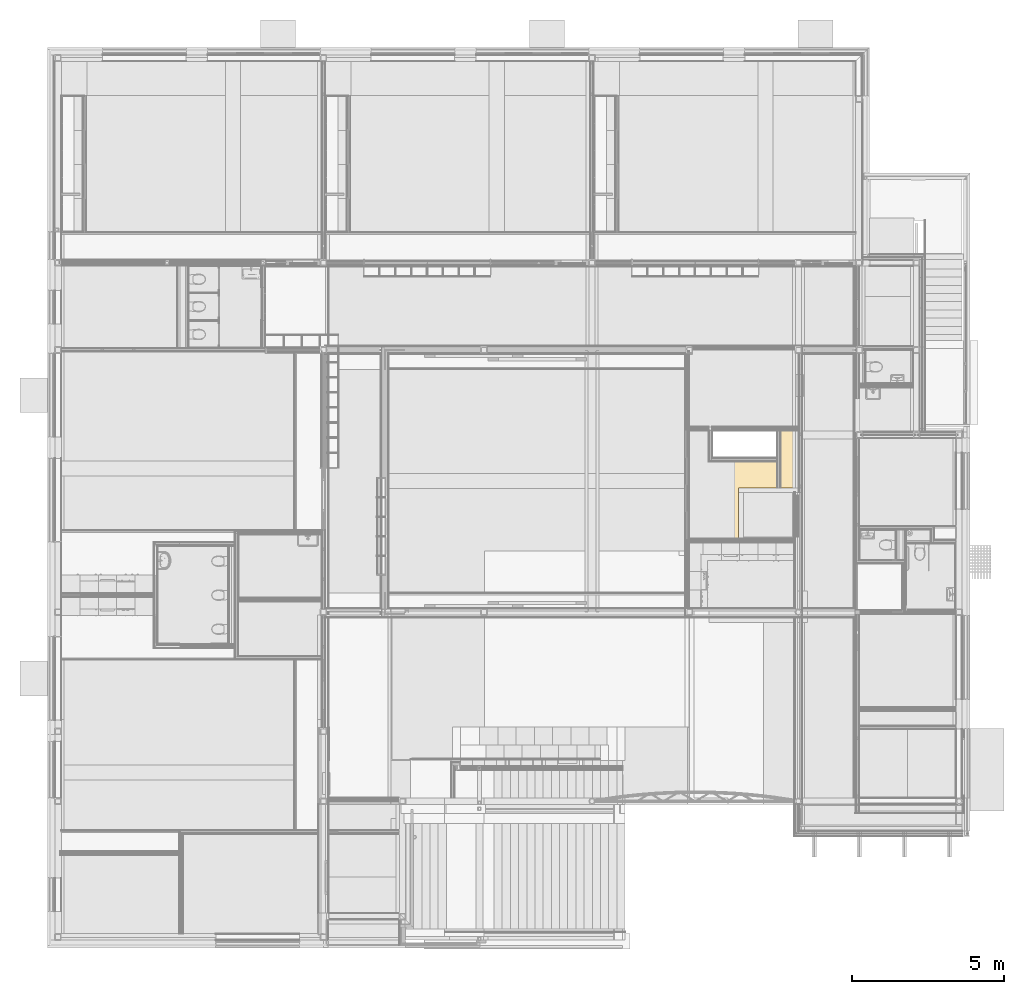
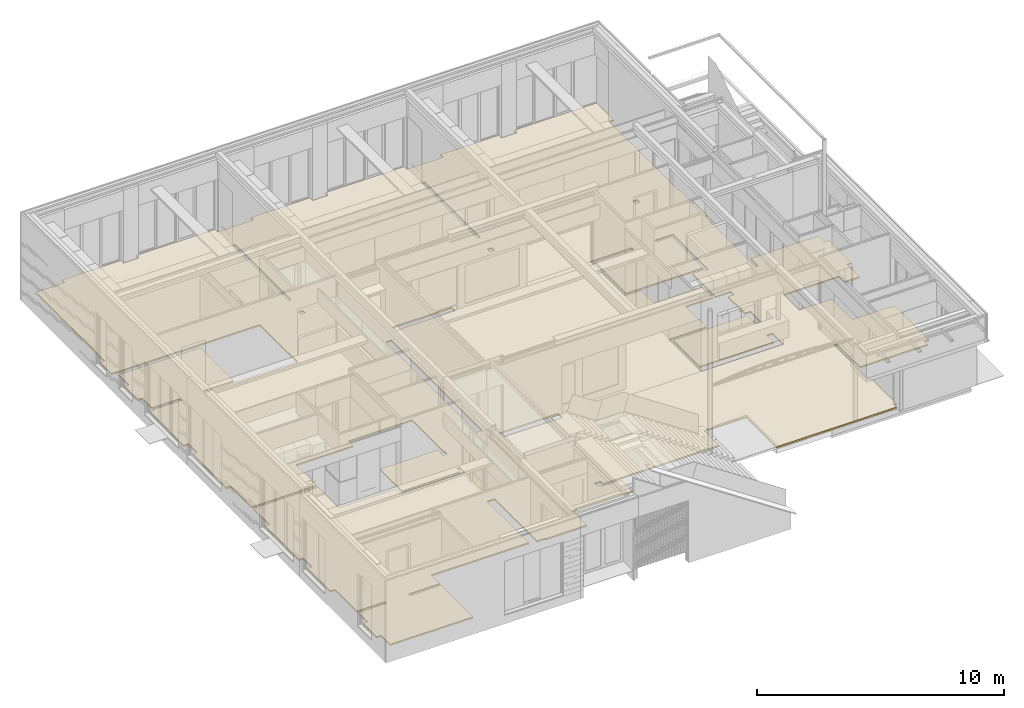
# One storey, part 116 of 165: 1 covering, 1 element without a shape of its own.
"""IFC2X3 building model written with IfcOpenShell, lengths in millimetres."""

from ifc_helpers import new_model, entity, si_unit, converted_unit, derived_unit, money_unit, direction, frame, origin_with_axes, place, context, subcontext, project, spatial, faceted_brep, material, type_object, element, aggregate, save


model = new_model("IFC2X3")

# Units and contexts
model_context = context("Model", 3, precision=0.01, world=origin_with_axes(), true_north=direction((0.0, 1.0)))
body_context = subcontext(model_context, "Body", "Model", "MODEL_VIEW")
ifc_project = project(units=[si_unit("LENGTHUNIT", "METRE", prefix="MILLI"), si_unit("AREAUNIT", "SQUARE_METRE"), si_unit("VOLUMEUNIT", "CUBIC_METRE"), converted_unit("PLANEANGLEUNIT", "DEGREE", entity("IfcPlaneAngleMeasure", 0.0174532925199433), si_unit("PLANEANGLEUNIT", "RADIAN"), dimensions=[0, 0, 0, 0, 0, 0, 0]), money_unit("EUR"), converted_unit("TIMEUNIT", "Year", entity("IfcTimeMeasure", 31556926.0), si_unit("TIMEUNIT", "SECOND"), dimensions=[0, 0, 1, 0, 0, 0, 0]), si_unit("MASSUNIT", "GRAM", prefix="KILO"), si_unit("THERMODYNAMICTEMPERATUREUNIT", "DEGREE_CELSIUS"), si_unit("LUMINOUSINTENSITYUNIT", "LUMEN"), si_unit("ENERGYUNIT", "JOULE", prefix="MEGA"), derived_unit("THERMALCONDUCTANCEUNIT", [(si_unit("POWERUNIT", "WATT"), 1), (si_unit("LENGTHUNIT", "METRE"), -1), (si_unit("THERMODYNAMICTEMPERATUREUNIT", "KELVIN"), -1)]), derived_unit("SPECIFICHEATCAPACITYUNIT", [(si_unit("ENERGYUNIT", "JOULE"), 1), (si_unit("MASSUNIT", "GRAM", prefix="KILO"), -1), (si_unit("THERMODYNAMICTEMPERATUREUNIT", "KELVIN"), -1)]), derived_unit("MASSDENSITYUNIT", [(si_unit("MASSUNIT", "GRAM", prefix="KILO"), 1), (si_unit("VOLUMEUNIT", "CUBIC_METRE"), -1)])], contexts=[model_context])

# Site, building, storey
site_placement = place(None, origin_with_axes())
site = spatial("IfcSite", under=ifc_project, at=site_placement, Name="Site", CompositionType="ELEMENT")
building_placement = place(site_placement, origin_with_axes())
building = spatial("IfcBuilding", under=site, at=building_placement, Name="Naam gebouw", CompositionType="ELEMENT")
storey_placement = place(building_placement, origin_with_axes())
storey = spatial("IfcBuildingStorey", under=building, at=storey_placement, Name="Begane grond", CompositionType="ELEMENT", Elevation=0.0)

# Slab, covering
slab_type = type_object("IfcSlabType", Name="43 Zwevende dekvloer 100", PredefinedType="NOTDEFINED")
slab_placement = place(storey_placement, frame((-1.067573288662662e-10, 13124.99976110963, 0.0), z_axis=(0.0, 0.0, 1.0), x_axis=(1.0, 0.0, 0.0)))
slab = element("IfcSlab", 1, at=slab_placement, inside=storey, type_object=slab_type, Name="_Vloer-x", PredefinedType="NOTDEFINED")
ifc_material = material(Name="Cement - dekvloer")
covering_placement = place(slab_placement, origin_with_axes())
covering = element("IfcCovering", 2, at=covering_placement, material=ifc_material, Name="Cement - dekvloer", PredefinedType="FLOORING", context=body_context, shape_type="Brep", body=[
    faceted_brep([(214.0000000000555, 0.0, -70.0), (214.0000000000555, 0.0, 0.0), (0.0, 0.0, 0.0), (0.0, 0.0, -70.0), (214.0000000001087, -1692.499063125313, -70.0), (214.0000000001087, -1692.499063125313, 0.0), (3249.992400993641, -1692.499063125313, 0.0), (3250.000058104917, -9.999486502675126, 0.0), (5924.999489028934, -9.999486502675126, 0.0), (5924.999597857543, 380.0005134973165, 0.0), (8912.500000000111, 380.0002711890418, 0.0), (8912.500000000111, -2214.999650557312, 0.0), (8950.00000000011, -2214.999650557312, 0.0), (8950.00000000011, -2414.999650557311, 0.0), (8750.000000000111, -2414.999650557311, 0.0), (8750.000000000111, -2214.999650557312, 0.0), (8787.500000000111, -2214.999650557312, 0.0), (8787.500000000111, -1969.999670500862, 0.0), (6049.999597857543, -1969.999670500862, 0.0), (6049.999597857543, -3764.99979461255, 0.0), (8787.50000000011, -3764.99979461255, 0.0), (8787.500000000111, -3494.999650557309, 0.0), (8912.500000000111, -3494.999650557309, 0.0), (8912.500000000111, -3889.999804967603, 0.0), (8787.50000000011, -3889.999804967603, 0.0), (5924.999597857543, -3889.999804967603, 0.0), (5924.999586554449, -3500.000102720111, 0.0), (3249.984153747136, -3499.999594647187, 0.0), (3249.992340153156, -1817.503187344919, 0.0), (214.0000000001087, -1817.503187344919, 0.0), (214.0000000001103, -3119.999761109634, 0.0), (1.112054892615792e-10, -3119.999761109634, 0.0), (1.120353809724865e-10, -5869.999761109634, 0.0), (214.0000000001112, -5869.999761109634, 0.0), (214.0000000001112, -6579.999761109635, 0.0), (1.112054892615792e-10, -6579.999761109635, 0.0), (1.095457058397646e-10, -8429.999761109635, 0.0), (214.0000000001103, -8429.999761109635, 0.0), (214.0000000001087, -10200.00404893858, 0.0), (1513.999964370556, -10200.00404893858, 0.0), (1513.999964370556, -10325.00404893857, 0.0), (214.0000000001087, -10325.00404893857, 0.0), (214.0000000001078, -11074.91186087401, 0.0), (1.070560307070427e-10, -11074.91186087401, 0.0), (1.062261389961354e-10, -12174.99976110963, 0.0), (214.0000000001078, -12174.99976110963, 0.0), (214.0000000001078, -12910.99976110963, 0.0), (4100.000000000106, -12910.99976110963, 0.0), (4100.000000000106, -10325.00404893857, 0.0), (2643.999964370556, -10325.00404893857, 0.0), (2643.999964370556, -10200.00404893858, 0.0), (4100.000000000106, -10200.00404893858, 0.0), (4100.000000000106, -9625.004048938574, 0.0), (4100.000000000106, -9500.004048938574, 0.0), (8675.000000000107, -9500.004048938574, 0.0), (8675.000000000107, -6119.999761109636, 0.0), (9025.000000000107, -6119.999761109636, 0.0), (9025.000000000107, -9560.004035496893, 0.0), (9416.00000000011, -9560.004035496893, 0.0), (9416.00000000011, -9605.004048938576, 0.0), (11336.00000000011, -9605.004048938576, 0.0), (11336.00000000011, -8430.999761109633, 0.0), (14150.00000000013, -8430.999761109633, 0.0), (14150.00000000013, -7519.999756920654, 0.0), (13220.57016167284, -7519.999756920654, 0.0), (13220.57016167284, -7429.999756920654, 0.0), (13088.57016167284, -7429.999756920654, 0.0), (13088.57016167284, -7194.999870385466, 0.0), (13358.5701575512, -7194.999870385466, 0.0), (13358.5701575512, -7394.999762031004, 0.0), (14300.00000000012, -7394.999762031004, 0.0), (18790.00001687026, -7394.999762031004, 0.0), (18790.00001687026, -6194.999430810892, 0.0), (20759.99795555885, -6194.999430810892, 0.0), (20759.99795555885, -8644.999761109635, 0.0), (26386.00000000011, -8644.999761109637, 0.0), (26386.00000000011, -8430.999761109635, 0.0), (26511.00000000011, -8430.999761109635, 0.0), (26511.00000000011, -6420.999761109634, 0.0), (26386.00000000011, -6420.999761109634, 0.0), (26386.00000000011, -3577.499650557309, 0.0), (26511.00000000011, -3577.499650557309, 0.0), (26511.00000000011, -5450.001717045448, 0.0), (29686.0000000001, -5450.001717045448, 0.0), (29686.0000000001, -5179.999650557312, 0.0), (29900.0000000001, -5179.999650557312, 0.0), (29900.0000000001, -2429.999650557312, 0.0), (29686.0000000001, -2429.999650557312, 0.0), (29686.0000000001, -2377.499650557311, 0.0), (27924.999952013, -2377.499650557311, 0.0), (27924.99913789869, -2102.499733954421, 0.0), (27924.99913789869, -725.0005355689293, 0.0), (26386.00000000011, -725.0014712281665, 0.0), (26386.00000000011, 524.9980205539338, 0.0), (28985.9999999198, 524.9980205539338, 0.0), (28985.9999999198, 74.9980157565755, 0.0), (29686.0000000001, 74.9980157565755, 0.0), (29686.0000000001, 1080.997940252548, 0.0), (29900.0000000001, 1080.997940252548, 0.0), (29900.0000000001, 2930.997946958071, 0.0), (29686.0000000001, 2930.997946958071, 0.0), (29686.0000000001, 3410.998020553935, 0.0), (28286.00006241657, 3410.998020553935, 0.0), (26511.00000000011, 3410.998020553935, 0.0), (26511.00000000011, 2804.99802055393, 0.0), (26386.00000000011, 2804.99802055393, 0.0), (26386.00000000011, 3624.998020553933, 0.0), (26386.00000000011, 4704.998020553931, 0.0), (26386.00000000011, 6450.000631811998, 0.0), (26436.00000000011, 6450.000631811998, 0.0), (26436.00000000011, 6955.976481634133, 0.0), (26518.00000000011, 6955.976481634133, 0.0), (26518.00000000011, 7995.976481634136, 0.0), (26441.00000000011, 7995.976481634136, 0.0), (26441.00000000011, 9085.976481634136, 0.0), (26386.00000000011, 9085.976481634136, 0.0), (26386.00000000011, 14655.00023889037, 0.0), (26600.00000000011, 14655.00023889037, 0.0), (26600.00000000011, 16050.00023889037, 0.0), (22734.99942457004, 16050.00023889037, 0.0), (22734.99942457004, 15836.00023889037, 0.0), (22024.99942457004, 15836.00023889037, 0.0), (22024.99942457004, 16050.00023889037, 0.0), (19274.99942457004, 16050.00023889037, 0.0), (19274.99942457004, 15836.00023889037, 0.0), (17584.99940371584, 15836.00023889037, 0.0), (17584.99940371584, 16050.00023889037, 0.0), (13884.99935033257, 16050.00023889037, 0.0), (13884.99935033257, 15836.00023889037, 0.0), (13174.99952442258, 15836.00023889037, 0.0), (13174.99952442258, 16050.00023889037, 0.0), (10424.99937640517, 16050.00023889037, 0.0), (10424.99937640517, 15836.00023889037, 0.0), (8734.999997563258, 15836.00023889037, 0.0), (8734.999997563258, 16050.00023889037, 0.0), (5034.999961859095, 16050.00023889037, 0.0), (5034.999961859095, 15836.00023889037, 0.0), (4324.999864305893, 15836.00023889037, 0.0), (4324.999864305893, 16050.00023889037, 0.0), (1575.000000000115, 16050.00023889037, 0.0), (1575.000000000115, 15836.00023889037, 0.0), (214.0000000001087, 15836.00023889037, 0.0), (214.0000000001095, 10215.00008596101, 0.0), (1.095457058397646e-10, 10215.00008596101, 0.0), (1.095457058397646e-10, 9315.000085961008, 0.0), (214.0000000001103, 9315.000085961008, 0.0), (214.0000000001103, 9294.977024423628, 0.0), (6939.999918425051, 9294.99498550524, 0.0), (6940.000053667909, 6262.500050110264, 0.0), (2644.000000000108, 6262.500050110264, 0.0), (2644.000000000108, 6387.500050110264, 0.0), (4029.999994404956, 6387.500050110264, 0.0), (4029.999994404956, 9104.98721465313, 0.0), (214.0005073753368, 9104.977011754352, 0.0), (214.0001290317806, 8285.000050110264, 0.0), (1.112054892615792e-10, 8285.000050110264, 0.0), (1.112054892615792e-10, 7185.000050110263, 0.0), (214.0000000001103, 7185.000050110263, 0.0), (214.0000000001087, 6387.500050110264, 0.0), (1514.000000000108, 6387.500050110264, 0.0), (1514.000000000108, 6262.500050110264, 0.0), (214.0000000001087, 6262.500050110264, 0.0), (214.0000000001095, 6210.000111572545, 0.0), (1.070560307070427e-10, 6210.000111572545, 0.0), (1.0788592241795e-10, 3460.000048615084, 0.0), (214.0000000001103, 3460.000048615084, 0.0), (214.0000000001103, 2750.000062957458, 0.0), (0.0, 2750.000062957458, 0.0), (8750.000000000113, 9300.000085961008, 0.0), (8950.000000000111, 9300.000085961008, 0.0), (8950.000000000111, 9100.000085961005, 0.0), (8750.000000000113, 9100.000085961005, 0.0), (8787.500000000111, 10200.00008596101, 0.0), (8787.500000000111, 14706.00023889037, 0.0), (8912.500000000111, 14706.00023889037, 0.0), (8912.500000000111, 10200.00008596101, 0.0), (10740.00000000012, -1680.000944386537, 0.0), (10740.00000000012, 5690.000631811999, 0.0), (11010.00000000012, 5690.000631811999, 0.0), (11010.00000000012, -1680.000944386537, 0.0), (11515.00000000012, 6460.000631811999, 0.0), (14274.99795005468, 6460.000631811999, 0.0), (14274.99795005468, 6190.000631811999, 0.0), (11515.00000000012, 6190.000631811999, 0.0), (11515.00006286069, -2180.000944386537, 0.0), (14275.00189153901, -2180.000944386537, 0.0), (14275.00189153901, -2505.000944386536, 0.0), (11515.00006286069, -2505.000944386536, 0.0), (17799.99942457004, 9100.000085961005, 0.0), (17599.99942457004, 9100.000085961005, 0.0), (17599.99942457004, 9300.000085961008, 0.0), (17799.99942457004, 9300.000085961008, 0.0), (17762.49942457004, 10200.00008596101, 0.0), (17637.49942457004, 10200.00008596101, 0.0), (17637.49942457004, 14706.00023889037, 0.0), (17762.49942457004, 14706.00023889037, 0.0), (20774.99906281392, 3664.998080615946, 0.0), (20774.99782692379, 6460.000631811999, 0.0), (22719.98347325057, 6460.000631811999, 0.0), (22719.98347325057, 6335.000631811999, 0.0), (20899.99788392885, 6335.000631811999, 0.0), (20899.99904455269, 3789.998020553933, 0.0), (24509.99903999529, 3789.966411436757, 0.0), (24509.99903999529, 6335.000631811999, 0.0), (23799.98347325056, 6335.000631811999, 0.0), (23799.98347325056, 6460.000631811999, 0.0), (24634.99903999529, 6460.000631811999, 0.0), (24634.99903999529, 3594.9979409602, 0.0), (24509.99903999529, 3594.9979409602, 0.0), (24509.99903999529, 3664.998020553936, 0.0), (23924.99903999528, 3664.998020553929, 0.0), (23924.99903999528, 1784.997941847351, 0.0), (24634.99903999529, 1784.997941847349, 0.0), (24634.99903999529, 1524.497940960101, 0.0), (24364.99903999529, 1524.497940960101, 0.0), (24364.99903999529, 164.4979409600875, 0.0), (24634.99903999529, 164.4979409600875, 0.0), (24634.99903999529, -670.0020590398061, 0.0), (24364.99903999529, -670.0020590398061, 0.0), (24364.99907625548, -20.00205903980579, 0.0), (20899.99920567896, -20.00153493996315, 0.0), (20900.00167438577, -2179.998763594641, 0.0), (24365.03601260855, -2179.913999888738, 0.0), (24365.02231587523, -1620.008663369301, 0.0), (24635.02227945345, -1620.002058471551, 0.0), (24635.04392842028, -2504.984760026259, 0.0), (20774.99906281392, -2505.000944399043, 0.0), (20774.99906281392, 104.9984839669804, 0.0), (22534.9990383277, 104.9984839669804, 0.0), (22534.9990383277, 1784.998146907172, 0.0), (23799.99903999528, 1784.998146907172, 0.0), (23799.99903999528, 2649.997805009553, 0.0), (21539.99919353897, 2649.998146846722, 0.0), (21539.99919353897, 3664.998028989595, 0.0), (24599.99903999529, 9100.000085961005, 0.0), (24399.99903999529, 9100.000085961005, 0.0), (24399.99903999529, 9300.000085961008, 0.0), (24599.99903999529, 9300.000085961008, 0.0), (0.0, 2750.000062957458, -70.0), (214.0000000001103, 2750.000062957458, -70.0), (214.0000000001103, 3460.000048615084, -70.0), (1.0788592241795e-10, 3460.000048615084, -70.0), (1.070560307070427e-10, 6210.000111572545, -70.0), (214.0000000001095, 6210.000111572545, -70.0), (214.0000000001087, 6262.500050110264, -70.0), (1514.000000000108, 6262.500050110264, -70.0), (1514.000000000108, 6387.500050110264, -70.0), (214.0000000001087, 6387.500050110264, -70.0), (214.0000000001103, 7185.000050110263, -70.0), (1.112054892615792e-10, 7185.000050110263, -70.0), (1.112054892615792e-10, 8285.000050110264, -70.0), (214.0001290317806, 8285.000050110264, -70.0), (214.0005073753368, 9104.977011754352, -70.0), (4029.999994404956, 9104.98721465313, -70.0), (4029.999994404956, 6387.500050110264, -70.0), (2644.000000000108, 6387.500050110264, -70.0), (2644.000000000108, 6262.500050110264, -70.0), (6940.000053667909, 6262.500050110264, -70.0), (6939.999918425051, 9294.99498550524, -70.0), (214.0000000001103, 9294.977024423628, -70.0), (214.0000000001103, 9315.000085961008, -70.0), (1.095457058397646e-10, 9315.000085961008, -70.0), (1.095457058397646e-10, 10215.00008596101, -70.0), (214.0000000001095, 10215.00008596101, -70.0), (214.0000000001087, 15836.00023889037, -70.0), (1575.000000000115, 15836.00023889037, -70.0), (1575.000000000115, 16050.00023889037, -70.0), (4324.999864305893, 16050.00023889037, -70.0), (4324.999864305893, 15836.00023889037, -70.0), (5034.999961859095, 15836.00023889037, -70.0), (5034.999961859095, 16050.00023889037, -70.0), (8734.999997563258, 16050.00023889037, -70.0), (8734.999997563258, 15836.00023889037, -70.0), (10424.99937640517, 15836.00023889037, -70.0), (10424.99937640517, 16050.00023889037, -70.0), (13174.99952442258, 16050.00023889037, -70.0), (13174.99952442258, 15836.00023889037, -70.0), (13884.99935033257, 15836.00023889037, -70.0), (13884.99935033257, 16050.00023889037, -70.0), (17584.99940371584, 16050.00023889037, -70.0), (17584.99940371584, 15836.00023889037, -70.0), (19274.99942457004, 15836.00023889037, -70.0), (19274.99942457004, 16050.00023889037, -70.0), (22024.99942457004, 16050.00023889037, -70.0), (22024.99942457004, 15836.00023889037, -70.0), (22734.99942457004, 15836.00023889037, -70.0), (22734.99942457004, 16050.00023889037, -70.0), (26600.00000000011, 16050.00023889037, -70.0), (26600.00000000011, 14655.00023889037, -70.0), (26386.00000000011, 14655.00023889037, -70.0), (26386.00000000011, 9085.976481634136, -70.0), (26441.00000000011, 9085.976481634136, -70.0), (26441.00000000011, 7995.976481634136, -70.0), (26518.00000000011, 7995.976481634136, -70.0), (26518.00000000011, 6955.976481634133, -70.0), (26436.00000000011, 6955.976481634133, -70.0), (26436.00000000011, 6450.000631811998, -70.0), (26386.00000000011, 6450.000631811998, -70.0), (26386.00000000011, 4704.998020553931, -70.0), (26386.00000000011, 3624.998020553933, -70.0), (26386.00000000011, 2804.99802055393, -70.0), (26511.00000000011, 2804.99802055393, -70.0), (26511.00000000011, 3410.998020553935, -70.0), (28286.00006241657, 3410.998020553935, -70.0), (29686.0000000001, 3410.998020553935, -70.0), (29686.0000000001, 2930.997946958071, -70.0), (29900.0000000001, 2930.997946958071, -70.0), (29900.0000000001, 1080.997940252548, -70.0), (29686.0000000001, 1080.997940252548, -70.0), (29686.0000000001, 74.9980157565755, -70.0), (28985.9999999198, 74.9980157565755, -70.0), (28985.9999999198, 524.9980205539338, -70.0), (26386.00000000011, 524.9980205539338, -70.0), (26386.00000000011, -725.0014712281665, -70.0), (27924.99913789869, -725.0005355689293, -70.0), (27924.99913789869, -2102.499733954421, -70.0), (27924.999952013, -2377.499650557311, -70.0), (29686.0000000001, -2377.499650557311, -70.0), (29686.0000000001, -2429.999650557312, -70.0), (29900.0000000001, -2429.999650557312, -70.0), (29900.0000000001, -5179.999650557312, -70.0), (29686.0000000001, -5179.999650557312, -70.0), (29686.0000000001, -5450.001717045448, -70.0), (26511.00000000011, -5450.001717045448, -70.0), (26511.00000000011, -3577.499650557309, -70.0), (26386.00000000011, -3577.499650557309, -70.0), (26386.00000000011, -6420.999761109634, -70.0), (26511.00000000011, -6420.999761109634, -70.0), (26511.00000000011, -8430.999761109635, -70.0), (26386.00000000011, -8430.999761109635, -70.0), (26386.00000000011, -8644.999761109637, -70.0), (20759.99795555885, -8644.999761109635, -70.0), (20759.99795555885, -6194.999430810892, -70.0), (18790.00001687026, -6194.999430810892, -70.0), (18790.00001687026, -7394.999762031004, -70.0), (14300.00000000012, -7394.999762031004, -70.0), (13358.5701575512, -7394.999762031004, -70.0), (13358.5701575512, -7194.999870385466, -70.0), (13088.57016167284, -7194.999870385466, -70.0), (13088.57016167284, -7429.999756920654, -70.0), (13220.57016167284, -7429.999756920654, -70.0), (13220.57016167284, -7519.999756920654, -70.0), (14150.00000000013, -7519.999756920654, -70.0), (14150.00000000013, -8430.999761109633, -70.0), (11336.00000000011, -8430.999761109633, -70.0), (11336.00000000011, -9605.004048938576, -70.0), (9416.00000000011, -9605.004048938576, -70.0), (9416.00000000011, -9560.004035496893, -70.0), (9025.000000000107, -9560.004035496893, -70.0), (9025.000000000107, -6119.999761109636, -70.0), (8675.000000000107, -6119.999761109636, -70.0), (8675.000000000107, -9500.004048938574, -70.0), (4100.000000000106, -9500.004048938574, -70.0), (4100.000000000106, -9625.004048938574, -70.0), (4100.000000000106, -10200.00404893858, -70.0), (2643.999964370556, -10200.00404893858, -70.0), (2643.999964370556, -10325.00404893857, -70.0), (4100.000000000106, -10325.00404893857, -70.0), (4100.000000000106, -12910.99976110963, -70.0), (214.0000000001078, -12910.99976110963, -70.0), (214.0000000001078, -12174.99976110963, -70.0), (1.062261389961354e-10, -12174.99976110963, -70.0), (1.070560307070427e-10, -11074.91186087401, -70.0), (214.0000000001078, -11074.91186087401, -70.0), (214.0000000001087, -10325.00404893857, -70.0), (1513.999964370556, -10325.00404893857, -70.0), (1513.999964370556, -10200.00404893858, -70.0), (214.0000000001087, -10200.00404893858, -70.0), (214.0000000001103, -8429.999761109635, -70.0), (1.095457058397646e-10, -8429.999761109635, -70.0), (1.112054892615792e-10, -6579.999761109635, -70.0), (214.0000000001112, -6579.999761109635, -70.0), (214.0000000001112, -5869.999761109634, -70.0), (1.120353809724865e-10, -5869.999761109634, -70.0), (1.112054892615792e-10, -3119.999761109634, -70.0), (214.0000000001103, -3119.999761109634, -70.0), (214.0000000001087, -1817.503187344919, -70.0), (3249.992340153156, -1817.503187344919, -70.0), (3249.984153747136, -3499.999594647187, -70.0), (5924.999586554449, -3500.000102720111, -70.0), (5924.999597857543, -3889.999804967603, -70.0), (8787.50000000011, -3889.999804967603, -70.0), (8912.500000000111, -3889.999804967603, -70.0), (8912.500000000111, -3494.999650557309, -70.0), (8787.500000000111, -3494.999650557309, -70.0), (8787.50000000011, -3764.99979461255, -70.0), (6049.999597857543, -3764.99979461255, -70.0), (6049.999597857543, -1969.999670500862, -70.0), (8787.500000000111, -1969.999670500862, -70.0), (8787.500000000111, -2214.999650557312, -70.0), (8750.000000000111, -2214.999650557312, -70.0), (8750.000000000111, -2414.999650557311, -70.0), (8950.00000000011, -2414.999650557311, -70.0), (8950.00000000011, -2214.999650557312, -70.0), (8912.500000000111, -2214.999650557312, -70.0), (8912.500000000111, 380.0002711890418, -70.0), (5924.999597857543, 380.0005134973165, -70.0), (5924.999489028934, -9.999486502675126, -70.0), (3250.000058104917, -9.999486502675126, -70.0), (3249.992400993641, -1692.499063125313, -70.0), (8750.000000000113, 9300.000085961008, -70.0), (8750.000000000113, 9100.000085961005, -70.0), (8950.000000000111, 9100.000085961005, -70.0), (8950.000000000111, 9300.000085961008, -70.0), (8787.500000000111, 10200.00008596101, -70.0), (8912.500000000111, 10200.00008596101, -70.0), (8912.500000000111, 14706.00023889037, -70.0), (8787.500000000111, 14706.00023889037, -70.0), (10740.00000000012, -1680.000944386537, -70.0), (11010.00000000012, -1680.000944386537, -70.0), (11010.00000000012, 5690.000631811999, -70.0), (10740.00000000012, 5690.000631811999, -70.0), (11515.00000000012, 6460.000631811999, -70.0), (11515.00000000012, 6190.000631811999, -70.0), (14274.99795005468, 6190.000631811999, -70.0), (14274.99795005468, 6460.000631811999, -70.0), (11515.00006286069, -2180.000944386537, -70.0), (11515.00006286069, -2505.000944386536, -70.0), (14275.00189153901, -2505.000944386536, -70.0), (14275.00189153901, -2180.000944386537, -70.0), (17799.99942457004, 9100.000085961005, -70.0), (17799.99942457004, 9300.000085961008, -70.0), (17599.99942457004, 9300.000085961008, -70.0), (17599.99942457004, 9100.000085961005, -70.0), (17762.49942457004, 10200.00008596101, -70.0), (17762.49942457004, 14706.00023889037, -70.0), (17637.49942457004, 14706.00023889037, -70.0), (17637.49942457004, 10200.00008596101, -70.0), (20774.99906281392, 3664.998080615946, -70.0), (21539.99919353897, 3664.998028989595, -70.0), (21539.99919353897, 2649.998146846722, -70.0), (23799.99903999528, 2649.997805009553, -70.0), (23799.99903999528, 1784.998146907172, -70.0), (22534.9990383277, 1784.998146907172, -70.0), (22534.9990383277, 104.9984839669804, -70.0), (20774.99906281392, 104.9984839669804, -70.0), (20774.99906281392, -2505.000944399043, -70.0), (24635.04392842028, -2504.984760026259, -70.0), (24635.02227945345, -1620.002058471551, -70.0), (24365.02231587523, -1620.008663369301, -70.0), (24365.03601260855, -2179.913999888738, -70.0), (20900.00167438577, -2179.998763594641, -70.0), (20899.99920567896, -20.00153493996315, -70.0), (24364.99907625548, -20.00205903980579, -70.0), (24364.99903999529, -670.0020590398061, -70.0), (24634.99903999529, -670.0020590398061, -70.0), (24634.99903999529, 164.4979409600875, -70.0), (24364.99903999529, 164.4979409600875, -70.0), (24364.99903999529, 1524.497940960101, -70.0), (24634.99903999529, 1524.497940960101, -70.0), (24634.99903999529, 1784.997941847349, -70.0), (23924.99903999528, 1784.997941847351, -70.0), (23924.99903999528, 3664.998020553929, -70.0), (24509.99903999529, 3664.998020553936, -70.0), (24509.99903999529, 3594.9979409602, -70.0), (24634.99903999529, 3594.9979409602, -70.0), (24634.99903999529, 6460.000631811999, -70.0), (23799.98347325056, 6460.000631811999, -70.0), (23799.98347325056, 6335.000631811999, -70.0), (24509.99903999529, 6335.000631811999, -70.0), (24509.99903999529, 3789.966411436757, -70.0), (20899.99904455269, 3789.998020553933, -70.0), (20899.99788392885, 6335.000631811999, -70.0), (22719.98347325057, 6335.000631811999, -70.0), (22719.98347325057, 6460.000631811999, -70.0), (20774.99782692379, 6460.000631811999, -70.0), (24599.99903999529, 9100.000085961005, -70.0), (24599.99903999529, 9300.000085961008, -70.0), (24399.99903999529, 9300.000085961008, -70.0), (24399.99903999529, 9100.000085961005, -70.0)], [[[0, 1, 2, 3]], [[4, 5, 1, 0]], [[2, 1, 5, 6, 7, 8, 9, 10, 11, 12, 13, 14, 15, 16, 17, 18, 19, 20, 21, 22, 23, 24, 25, 26, 27, 28, 29, 30, 31, 32, 33, 34, 35, 36, 37, 38, 39, 40, 41, 42, 43, 44, 45, 46, 47, 48, 49, 50, 51, 52, 53, 54, 55, 56, 57, 58, 59, 60, 61, 62, 63, 64, 65, 66, 67, 68, 69, 70, 71, 72, 73, 74, 75, 76, 77, 78, 79, 80, 81, 82, 83, 84, 85, 86, 87, 88, 89, 90, 91, 92, 93, 94, 95, 96, 97, 98, 99, 100, 101, 102, 103, 104, 105, 106, 107, 108, 109, 110, 111, 112, 113, 114, 115, 116, 117, 118, 119, 120, 121, 122, 123, 124, 125, 126, 127, 128, 129, 130, 131, 132, 133, 134, 135, 136, 137, 138, 139, 140, 141, 142, 143, 144, 145, 146, 147, 148, 149, 150, 151, 152, 153, 154, 155, 156, 157, 158, 159, 160, 161, 162, 163, 164, 165, 166, 167], [168, 169, 170, 171], [172, 173, 174, 175], [176, 177, 178, 179], [180, 181, 182, 183], [184, 185, 186, 187], [188, 189, 190, 191], [192, 193, 194, 195], [196, 197, 198, 199, 200, 201, 202, 203, 204, 205, 206, 207, 208, 209, 210, 211, 212, 213, 214, 215, 216, 217, 218, 219, 220, 221, 222, 223, 224, 225, 226, 227, 228, 229, 230, 231, 232, 233], [234, 235, 236, 237]], [[3, 2, 167, 238]], [[3, 238, 239, 240, 241, 242, 243, 244, 245, 246, 247, 248, 249, 250, 251, 252, 253, 254, 255, 256, 257, 258, 259, 260, 261, 262, 263, 264, 265, 266, 267, 268, 269, 270, 271, 272, 273, 274, 275, 276, 277, 278, 279, 280, 281, 282, 283, 284, 285, 286, 287, 288, 289, 290, 291, 292, 293, 294, 295, 296, 297, 298, 299, 300, 301, 302, 303, 304, 305, 306, 307, 308, 309, 310, 311, 312, 313, 314, 315, 316, 317, 318, 319, 320, 321, 322, 323, 324, 325, 326, 327, 328, 329, 330, 331, 332, 333, 334, 335, 336, 337, 338, 339, 340, 341, 342, 343, 344, 345, 346, 347, 348, 349, 350, 351, 352, 353, 354, 355, 356, 357, 358, 359, 360, 361, 362, 363, 364, 365, 366, 367, 368, 369, 370, 371, 372, 373, 374, 375, 376, 377, 378, 379, 380, 381, 382, 383, 384, 385, 386, 387, 388, 389, 390, 391, 392, 393, 394, 395, 396, 397, 398, 399, 4, 0], [400, 401, 402, 403], [404, 405, 406, 407], [408, 409, 410, 411], [412, 413, 414, 415], [416, 417, 418, 419], [420, 421, 422, 423], [424, 425, 426, 427], [428, 429, 430, 431, 432, 433, 434, 435, 436, 437, 438, 439, 440, 441, 442, 443, 444, 445, 446, 447, 448, 449, 450, 451, 452, 453, 454, 455, 456, 457, 458, 459, 460, 461, 462, 463, 464, 465], [466, 467, 468, 469]], [[399, 6, 5, 4]], [[398, 7, 6, 399]], [[397, 8, 7, 398]], [[396, 9, 8, 397]], [[395, 10, 9, 396]], [[394, 11, 10, 395]], [[393, 12, 11, 394]], [[392, 13, 12, 393]], [[391, 14, 13, 392]], [[390, 15, 14, 391]], [[389, 16, 15, 390]], [[388, 17, 16, 389]], [[387, 18, 17, 388]], [[386, 19, 18, 387]], [[385, 20, 19, 386]], [[384, 21, 20, 385]], [[383, 22, 21, 384]], [[382, 23, 22, 383]], [[381, 24, 23, 382]], [[380, 25, 24, 381]], [[379, 26, 25, 380]], [[378, 27, 26, 379]], [[377, 28, 27, 378]], [[376, 29, 28, 377]], [[375, 30, 29, 376]], [[374, 31, 30, 375]], [[373, 32, 31, 374]], [[372, 33, 32, 373]], [[371, 34, 33, 372]], [[370, 35, 34, 371]], [[369, 36, 35, 370]], [[368, 37, 36, 369]], [[367, 38, 37, 368]], [[366, 39, 38, 367]], [[365, 40, 39, 366]], [[364, 41, 40, 365]], [[363, 42, 41, 364]], [[362, 43, 42, 363]], [[361, 44, 43, 362]], [[360, 45, 44, 361]], [[359, 46, 45, 360]], [[358, 47, 46, 359]], [[357, 48, 47, 358]], [[356, 49, 48, 357]], [[355, 50, 49, 356]], [[354, 51, 50, 355]], [[353, 52, 51, 354]], [[352, 53, 52, 353]], [[351, 54, 53, 352]], [[350, 55, 54, 351]], [[349, 56, 55, 350]], [[348, 57, 56, 349]], [[347, 58, 57, 348]], [[346, 59, 58, 347]], [[345, 60, 59, 346]], [[344, 61, 60, 345]], [[343, 62, 61, 344]], [[342, 63, 62, 343]], [[341, 64, 63, 342]], [[340, 65, 64, 341]], [[339, 66, 65, 340]], [[338, 67, 66, 339]], [[337, 68, 67, 338]], [[336, 69, 68, 337]], [[335, 70, 69, 336]], [[334, 71, 70, 335]], [[333, 72, 71, 334]], [[332, 73, 72, 333]], [[331, 74, 73, 332]], [[330, 75, 74, 331]], [[329, 76, 75, 330]], [[328, 77, 76, 329]], [[327, 78, 77, 328]], [[326, 79, 78, 327]], [[325, 80, 79, 326]], [[324, 81, 80, 325]], [[323, 82, 81, 324]], [[322, 83, 82, 323]], [[321, 84, 83, 322]], [[320, 85, 84, 321]], [[319, 86, 85, 320]], [[318, 87, 86, 319]], [[317, 88, 87, 318]], [[316, 89, 88, 317]], [[315, 90, 89, 316]], [[314, 91, 90, 315]], [[313, 92, 91, 314]], [[312, 93, 92, 313]], [[311, 94, 93, 312]], [[310, 95, 94, 311]], [[309, 96, 95, 310]], [[308, 97, 96, 309]], [[307, 98, 97, 308]], [[306, 99, 98, 307]], [[305, 100, 99, 306]], [[304, 101, 100, 305]], [[303, 102, 101, 304]], [[302, 103, 102, 303]], [[301, 104, 103, 302]], [[300, 105, 104, 301]], [[299, 106, 105, 300]], [[298, 107, 106, 299]], [[297, 108, 107, 298]], [[296, 109, 108, 297]], [[295, 110, 109, 296]], [[294, 111, 110, 295]], [[293, 112, 111, 294]], [[292, 113, 112, 293]], [[291, 114, 113, 292]], [[290, 115, 114, 291]], [[289, 116, 115, 290]], [[288, 117, 116, 289]], [[287, 118, 117, 288]], [[286, 119, 118, 287]], [[285, 120, 119, 286]], [[284, 121, 120, 285]], [[283, 122, 121, 284]], [[282, 123, 122, 283]], [[281, 124, 123, 282]], [[280, 125, 124, 281]], [[279, 126, 125, 280]], [[278, 127, 126, 279]], [[277, 128, 127, 278]], [[276, 129, 128, 277]], [[275, 130, 129, 276]], [[274, 131, 130, 275]], [[273, 132, 131, 274]], [[272, 133, 132, 273]], [[271, 134, 133, 272]], [[270, 135, 134, 271]], [[269, 136, 135, 270]], [[268, 137, 136, 269]], [[267, 138, 137, 268]], [[266, 139, 138, 267]], [[265, 140, 139, 266]], [[264, 141, 140, 265]], [[263, 142, 141, 264]], [[262, 143, 142, 263]], [[261, 144, 143, 262]], [[260, 145, 144, 261]], [[259, 146, 145, 260]], [[258, 147, 146, 259]], [[257, 148, 147, 258]], [[256, 149, 148, 257]], [[255, 150, 149, 256]], [[254, 151, 150, 255]], [[253, 152, 151, 254]], [[252, 153, 152, 253]], [[251, 154, 153, 252]], [[250, 155, 154, 251]], [[249, 156, 155, 250]], [[248, 157, 156, 249]], [[247, 158, 157, 248]], [[246, 159, 158, 247]], [[245, 160, 159, 246]], [[244, 161, 160, 245]], [[243, 162, 161, 244]], [[242, 163, 162, 243]], [[241, 164, 163, 242]], [[240, 165, 164, 241]], [[239, 166, 165, 240]], [[238, 167, 166, 239]], [[403, 169, 168, 400]], [[402, 170, 169, 403]], [[401, 171, 170, 402]], [[400, 168, 171, 401]], [[407, 173, 172, 404]], [[406, 174, 173, 407]], [[405, 175, 174, 406]], [[404, 172, 175, 405]], [[411, 177, 176, 408]], [[410, 178, 177, 411]], [[409, 179, 178, 410]], [[408, 176, 179, 409]], [[415, 181, 180, 412]], [[414, 182, 181, 415]], [[413, 183, 182, 414]], [[412, 180, 183, 413]], [[419, 185, 184, 416]], [[418, 186, 185, 419]], [[417, 187, 186, 418]], [[416, 184, 187, 417]], [[423, 189, 188, 420]], [[422, 190, 189, 423]], [[421, 191, 190, 422]], [[420, 188, 191, 421]], [[427, 193, 192, 424]], [[426, 194, 193, 427]], [[425, 195, 194, 426]], [[424, 192, 195, 425]], [[465, 197, 196, 428]], [[464, 198, 197, 465]], [[463, 199, 198, 464]], [[462, 200, 199, 463]], [[461, 201, 200, 462]], [[460, 202, 201, 461]], [[459, 203, 202, 460]], [[458, 204, 203, 459]], [[457, 205, 204, 458]], [[456, 206, 205, 457]], [[455, 207, 206, 456]], [[454, 208, 207, 455]], [[453, 209, 208, 454]], [[452, 210, 209, 453]], [[451, 211, 210, 452]], [[450, 212, 211, 451]], [[449, 213, 212, 450]], [[448, 214, 213, 449]], [[447, 215, 214, 448]], [[446, 216, 215, 447]], [[445, 217, 216, 446]], [[444, 218, 217, 445]], [[443, 219, 218, 444]], [[442, 220, 219, 443]], [[441, 221, 220, 442]], [[440, 222, 221, 441]], [[439, 223, 222, 440]], [[438, 224, 223, 439]], [[437, 225, 224, 438]], [[436, 226, 225, 437]], [[435, 227, 226, 436]], [[434, 228, 227, 435]], [[433, 229, 228, 434]], [[432, 230, 229, 433]], [[431, 231, 230, 432]], [[430, 232, 231, 431]], [[429, 233, 232, 430]], [[428, 196, 233, 429]], [[469, 235, 234, 466]], [[468, 236, 235, 469]], [[467, 237, 236, 468]], [[466, 234, 237, 467]]]),
])
aggregate(slab, [covering])

save(model, "model.ifc")
